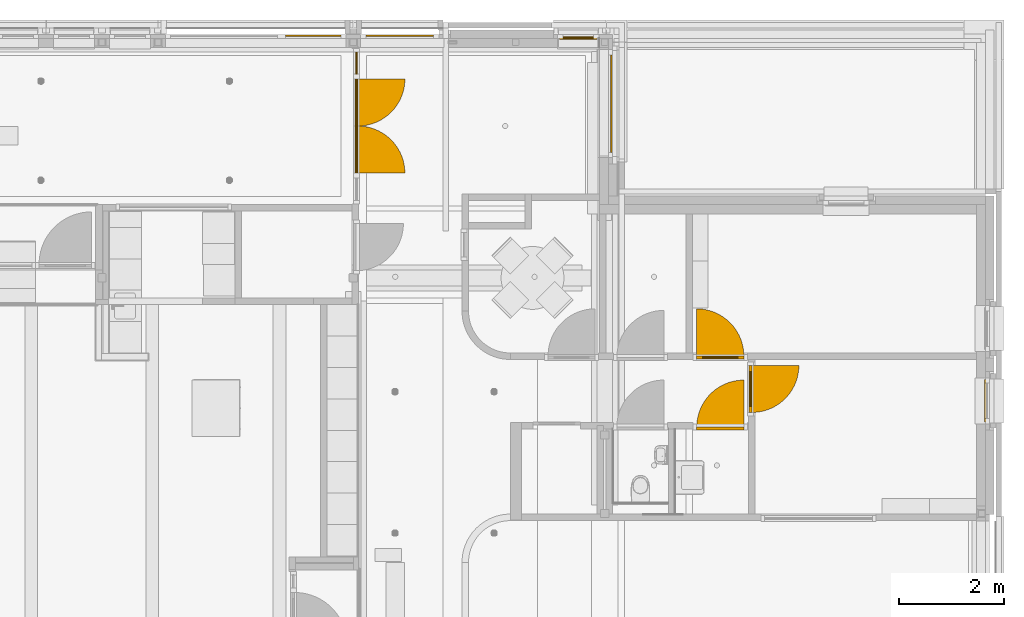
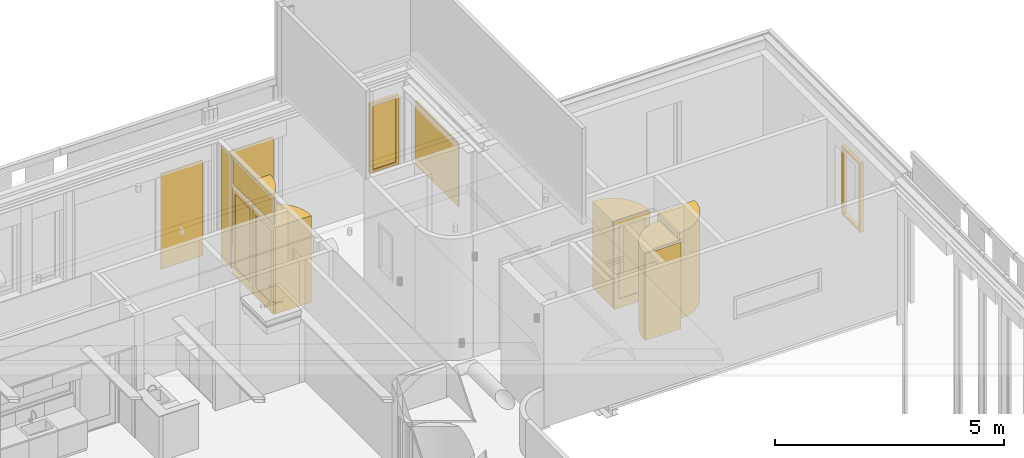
# One storey, part 71 of 128: 17 windows, 5 doors, 6 elements without a shape of their own.
"""IFC2X3 building model written with IfcOpenShell, lengths in millimetres."""

from ifc_helpers import new_model, entity, si_unit, converted_unit, derived_unit, direction, frame, frame_2d, origin, origin_2d_with_axis, place, context, subcontext, project, spatial, polyline, circle_curve, parameter, trimmed, segment, composite_curve, rectangle, outline, extrude, source, transform, mapped, material, type_object, type_shapes, element, aggregate, save


model = new_model("IFC2X3")

# Units and contexts
model_context = context("Model", 3, precision=0.01, world=origin(), true_north=direction((6.123031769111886e-17, 1.0)))
body_context = subcontext(model_context, "Body", "Model", "MODEL_VIEW")
ifc_project = project(units=[si_unit("LENGTHUNIT", "METRE", prefix="MILLI"), si_unit("AREAUNIT", "SQUARE_METRE"), si_unit("VOLUMEUNIT", "CUBIC_METRE"), converted_unit("PLANEANGLEUNIT", "DEGREE", entity("IfcRatioMeasure", 0.017453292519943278), si_unit("PLANEANGLEUNIT", "RADIAN"), dimensions=[0, 0, 0, 0, 0, 0, 0]), si_unit("MASSUNIT", "GRAM", prefix="KILO"), derived_unit("MASSDENSITYUNIT", [(si_unit("MASSUNIT", "GRAM", prefix="KILO"), 1), (si_unit("LENGTHUNIT", "METRE"), -3)]), derived_unit("IONCONCENTRATIONUNIT", [(si_unit("MASSUNIT", "GRAM", prefix="KILO"), 1), (si_unit("LENGTHUNIT", "METRE"), -3)]), derived_unit("MOMENTOFINERTIAUNIT", [(si_unit("LENGTHUNIT", "METRE"), 4)]), si_unit("TIMEUNIT", "SECOND"), si_unit("FREQUENCYUNIT", "HERTZ"), si_unit("THERMODYNAMICTEMPERATUREUNIT", "DEGREE_CELSIUS"), derived_unit("THERMALTRANSMITTANCEUNIT", [(si_unit("MASSUNIT", "GRAM", prefix="KILO"), 1), (si_unit("THERMODYNAMICTEMPERATUREUNIT", "KELVIN"), -1), (si_unit("TIMEUNIT", "SECOND"), -3)]), derived_unit("THERMALCONDUCTANCEUNIT", [(si_unit("MASSUNIT", "GRAM", prefix="KILO"), 1), (si_unit("THERMODYNAMICTEMPERATUREUNIT", "KELVIN"), -1), (si_unit("TIMEUNIT", "SECOND"), -3), (si_unit("LENGTHUNIT", "METRE"), 1)]), derived_unit("VOLUMETRICFLOWRATEUNIT", [(si_unit("LENGTHUNIT", "METRE"), 3), (si_unit("TIMEUNIT", "SECOND"), -1)]), derived_unit("MASSFLOWRATEUNIT", [(si_unit("MASSUNIT", "GRAM", prefix="KILO"), 1), (si_unit("TIMEUNIT", "SECOND"), -1)]), derived_unit("ROTATIONALFREQUENCYUNIT", [(si_unit("TIMEUNIT", "SECOND"), -1)]), si_unit("ELECTRICCURRENTUNIT", "AMPERE"), si_unit("ELECTRICVOLTAGEUNIT", "VOLT"), si_unit("POWERUNIT", "WATT"), si_unit("FORCEUNIT", "NEWTON", prefix="KILO"), si_unit("ILLUMINANCEUNIT", "LUX"), si_unit("LUMINOUSFLUXUNIT", "LUMEN"), si_unit("LUMINOUSINTENSITYUNIT", "CANDELA"), derived_unit("USERDEFINED", [(si_unit("MASSUNIT", "GRAM", prefix="KILO"), -1), (si_unit("LENGTHUNIT", "METRE"), -2), (si_unit("TIMEUNIT", "SECOND"), 3), (si_unit("LUMINOUSFLUXUNIT", "LUMEN"), 1)]), derived_unit("USERDEFINED", [(si_unit("MASSUNIT", "GRAM", prefix="KILO"), 1), (si_unit("TIMEUNIT", "SECOND"), -3), (si_unit("LENGTHUNIT", "METRE"), 3), (si_unit("ELECTRICCURRENTUNIT", "AMPERE"), -2)]), derived_unit("SOUNDPOWERUNIT", [(si_unit("MASSUNIT", "GRAM", prefix="KILO"), 1), (si_unit("TIMEUNIT", "SECOND"), -3), (si_unit("LENGTHUNIT", "METRE"), 2)]), derived_unit("SOUNDPRESSUREUNIT", [(si_unit("MASSUNIT", "GRAM", prefix="KILO"), 1), (si_unit("LENGTHUNIT", "METRE"), -1), (si_unit("TIMEUNIT", "SECOND"), -2)]), derived_unit("LINEARVELOCITYUNIT", [(si_unit("LENGTHUNIT", "METRE"), 1), (si_unit("TIMEUNIT", "SECOND"), -1)]), si_unit("PRESSUREUNIT", "PASCAL"), derived_unit("USERDEFINED", [(si_unit("MASSUNIT", "GRAM", prefix="KILO"), 1), (si_unit("LENGTHUNIT", "METRE"), -2), (si_unit("TIMEUNIT", "SECOND"), -2)]), derived_unit("LINEARFORCEUNIT", [(si_unit("MASSUNIT", "GRAM", prefix="KILO"), 1), (si_unit("TIMEUNIT", "SECOND"), -2)]), derived_unit("PLANARFORCEUNIT", [(si_unit("MASSUNIT", "GRAM", prefix="KILO"), 1), (si_unit("LENGTHUNIT", "METRE"), -1), (si_unit("TIMEUNIT", "SECOND"), -2)]), derived_unit("SPECIFICHEATCAPACITYUNIT", [(si_unit("THERMODYNAMICTEMPERATUREUNIT", "KELVIN"), -1), (si_unit("LENGTHUNIT", "METRE"), 2), (si_unit("TIMEUNIT", "SECOND"), -2)]), derived_unit("HEATINGVALUEUNIT", [(si_unit("LENGTHUNIT", "METRE"), 2), (si_unit("TIMEUNIT", "SECOND"), -2)]), derived_unit("VAPORPERMEABILITYUNIT", [(si_unit("LENGTHUNIT", "METRE"), -1), (si_unit("TIMEUNIT", "SECOND"), 1)]), derived_unit("DYNAMICVISCOSITYUNIT", [(si_unit("MASSUNIT", "GRAM", prefix="KILO"), 1), (si_unit("TIMEUNIT", "SECOND"), -1), (si_unit("LENGTHUNIT", "METRE"), -1)]), derived_unit("THERMALEXPANSIONCOEFFICIENTUNIT", [(si_unit("THERMODYNAMICTEMPERATUREUNIT", "KELVIN"), -1)]), derived_unit("MODULUSOFELASTICITYUNIT", [(si_unit("MASSUNIT", "GRAM", prefix="KILO"), 1), (si_unit("LENGTHUNIT", "METRE"), -1), (si_unit("TIMEUNIT", "SECOND"), -2)]), derived_unit("ISOTHERMALMOISTURECAPACITYUNIT", [(si_unit("LENGTHUNIT", "METRE"), 3), (si_unit("MASSUNIT", "GRAM", prefix="KILO"), -1)]), derived_unit("MOISTUREDIFFUSIVITYUNIT", [(si_unit("TIMEUNIT", "SECOND"), -1), (si_unit("LENGTHUNIT", "METRE"), 2)])], contexts=[model_context])

# Site, building, storey
site_placement = place(None, frame((0.0, 300.0, 0.0)))
site = spatial("IfcSite", under=ifc_project, at=site_placement, Name="<Kadastrale nummers>", CompositionType="ELEMENT")
building_placement = place(site_placement, origin())
building = spatial("IfcBuilding", under=site, at=building_placement, CompositionType="ELEMENT")
storey_placement = place(building_placement, frame((0.0, 0.0, 3560.0000331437)))
storey = spatial("IfcBuildingStorey", under=building, at=storey_placement, Name="01 eerste verdieping", CompositionType="ELEMENT", Elevation=3560.0000331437)

# Windows
ifc_material_1 = material(Name="Clearance Zones")
window_style_1 = type_object("IfcWindowStyle", Name="BU deur links:BU deur links", ConstructionType="NOTDEFINED", OperationType="NOTDEFINED", ParameterTakesPrecedence=False, Sizeable=False, material=ifc_material_1)
shared_shape_1 = source(origin(), body_context, "Body", "SweptSolid", [
    extrude(outline(composite_curve([segment(polyline([(-600.0, -300.0), (300.0, -300.0)]), True, "CONTINUOUS"), segment(polyline([(300.0, -300.0), (300.0, 600.0)]), True, "CONTINUOUS"), segment(trimmed(circle_curve(frame_2d((300.0, -300.0), x_axis=(1.0, 0.0)), 900.0000000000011), [parameter(90.00000000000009)], [parameter(179.99999999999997)], True, "PARAMETER"), True, "CONTINUOUS")], self_intersect=False)), frame((-150.0, -327.0, -20.0), z_axis=(0.0, 0.0, 1.0), x_axis=(-1.0, 0.0, 0.0)), (0.0, 0.0, 1.0), 2303.0000000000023),
])
type_shapes(window_style_1, [shared_shape_1])
for number, where, z_axis, x_axis, name in (
    (1, (36658.0, 47750.0, 130.0000018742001), (0.0, 0.0, 1.0), (0.0, 1.0, 0.0), "BU deur links:BU deur links"),
    (2, (43607.0, 42422.37500267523, 130.00000187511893), (0.0, 0.0, 1.0), (-1.0, 0.0, 0.0), "BU deur links:BU deur links"),
):
    element("IfcWindow", number, at=place(storey_placement, frame(where, z_axis=z_axis, x_axis=x_axis)), inside=storey, type_object=window_style_1, material=ifc_material_1, Name=name, ObjectType="BU deur links:BU deur links", OverallHeight=1183.999999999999, OverallWidth=900.0000000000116, context=body_context, shape_type="MappedRepresentation", body=[
        mapped(shared_shape_1, transform((0.0, 0.0, 0.0), scale=1.0)),
    ])
window_style_2 = type_object("IfcWindowStyle", Name="BU deur links:BU deur links", ConstructionType="NOTDEFINED", OperationType="NOTDEFINED", ParameterTakesPrecedence=False, Sizeable=False, material=ifc_material_1)
shared_shape_2 = source(origin(), body_context, "Body", "SweptSolid", [
    extrude(outline(composite_curve([segment(trimmed(circle_curve(frame_2d((300.0, 300.0), x_axis=(1.0, 0.0)), 900.0000000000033), [parameter(180.00000000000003)], [parameter(269.9999999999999)], True, "PARAMETER"), True, "CONTINUOUS"), segment(polyline([(300.0, -600.0), (300.0, 300.0)]), True, "CONTINUOUS"), segment(polyline([(300.0, 300.0), (-600.0, 300.0)]), True, "CONTINUOUS")], self_intersect=False)), frame((-150.0, 327.0, -20.0), z_axis=(0.0, 0.0, 1.0), x_axis=(-1.0, 0.0, 0.0)), (0.0, 0.0, 1.0), 2303.0000000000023),
])
type_shapes(window_style_2, [shared_shape_2])
window_1_placement = place(storey_placement, frame((43607.0, 43782.125002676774, 130.00000187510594)))
element("IfcWindow", 3, at=window_1_placement, inside=storey, type_object=window_style_2, material=ifc_material_1, Name="BU deur links:BU deur links", ObjectType="BU deur links:BU deur links", OverallHeight=1184.0000000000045, OverallWidth=900.0000000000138, context=body_context, shape_type="MappedRepresentation", body=[
    mapped(shared_shape_2, transform((0.0, 0.0, 0.0), scale=1.0)),
])
window_2_placement = place(storey_placement, frame((44182.0, 43180.125002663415, 130.00000187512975), z_axis=(0.0, 0.0, 1.0), x_axis=(0.0, -1.0, 0.0)))
element("IfcWindow", 4, at=window_2_placement, inside=storey, type_object=window_style_2, material=ifc_material_1, Name="BU deur links:BU deur links", ObjectType="BU deur links:BU deur links", OverallHeight=1184.0000000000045, OverallWidth=900.0000000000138, context=body_context, shape_type="MappedRepresentation", body=[
    mapped(shared_shape_2, transform((0.0, 0.0, 0.0), scale=1.0)),
])

# Curtain wall, door
curtain_wall_type_1 = type_object("IfcCurtainWallType", Name="Curtain Wall:Merk H02", PredefinedType="NOTDEFINED")
curtain_wall_1_placement = place(storey_placement, frame((0.0, 0.0, -3560.0000331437)))
curtain_wall_1 = element("IfcCurtainWall", 5, at=curtain_wall_1_placement, inside=storey, type_object=curtain_wall_type_1, Name="Curtain Wall:Merk H02", ObjectType="Curtain Wall:Merk H02")
ifc_material_2 = material(Name="ISR_Kunststof_wit")
door_style_1 = type_object("IfcDoorStyle", Name="31_DO_dichte_deur:dichte_deur", ConstructionType="NOTDEFINED", OperationType="NOTDEFINED", ParameterTakesPrecedence=False, Sizeable=False, material=ifc_material_2)
shared_shape_3 = source(origin(), body_context, "Body", "SweptSolid", [
    extrude(rectangle(XDim=26.99999999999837, YDim=899.9999999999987, at=origin_2d_with_axis()), frame((0.0, 12.499999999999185, 0.0), z_axis=(0.0, 0.0, 1.0), x_axis=(0.0, 1.0, 0.0)), (0.0, 0.0, 1.0), 2303.0000000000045),
    extrude(rectangle(XDim=26.99999999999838, YDim=899.9999999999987, at=origin_2d_with_axis()), frame((0.0, 39.49999999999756, 0.0), z_axis=(0.0, 0.0, 1.0), x_axis=(0.0, 1.0, 0.0)), (0.0, 0.0, 1.0), 2303.0000000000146),
])
type_shapes(door_style_1, [shared_shape_3])
door_1_placement = place(curtain_wall_1_placement, frame((43607.0, 42395.12500267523, 3670.00003501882)))
door_1 = element("IfcDoor", 6, at=door_1_placement, type_object=door_style_1, material=ifc_material_2, Name="31_DO_dichte_deur:dichte_deur", ObjectType="31_DO_dichte_deur:dichte_deur", OverallHeight=2303.0000000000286, OverallWidth=900.0000000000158, context=body_context, shape_type="MappedRepresentation", body=[
    mapped(shared_shape_3, transform((0.0, 0.0, 0.0), scale=1.0)),
])
aggregate(curtain_wall_1, [door_1])

# Windows
ifc_material_3 = material(Name="glas_enscape")
window_style_3 = type_object("IfcWindowStyle", Name="WI_subvak1:glas 2", ConstructionType="NOTDEFINED", OperationType="NOTDEFINED", ParameterTakesPrecedence=False, Sizeable=False, material=ifc_material_3)
shared_shape_4 = source(origin(), body_context, "Body", "SweptSolid", [
    extrude(rectangle(XDim=660.0000000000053, YDim=24.00000000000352, at=origin_2d_with_axis()), origin(), (0.0, 0.0, 1.0), 1942.999999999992),
])
type_shapes(window_style_3, [shared_shape_4])
for number, where, z_axis, x_axis, name in (
    (7, (43607.0, 43782.125002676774, 350.0000018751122), (0.0, 0.0, 1.0), (-1.0, 0.0, 0.0), "WI_subvak1:glas 2"),
    (8, (44182.0, 43180.1250026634, 350.00000187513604), (0.0, 0.0, 1.0), (0.0, 1.0, 0.0), "WI_subvak1:glas 2"),
):
    element("IfcWindow", number, at=place(storey_placement, frame(where, z_axis=z_axis, x_axis=x_axis)), inside=storey, type_object=window_style_3, material=ifc_material_3, Name=name, ObjectType="WI_subvak1:glas 2", OverallHeight=609.9286498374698, OverallWidth=660.0000000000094, context=body_context, shape_type="MappedRepresentation", body=[
        mapped(shared_shape_4, transform((0.0, 0.0, 0.0), scale=1.0)),
    ])
window_style_4 = type_object("IfcWindowStyle", Name="WI_subvak1:glas 2", ConstructionType="NOTDEFINED", OperationType="NOTDEFINED", ParameterTakesPrecedence=False, Sizeable=False, material=ifc_material_3)
shared_shape_5 = source(origin(), body_context, "Body", "SweptSolid", [
    extrude(rectangle(XDim=24.00000000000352, YDim=660.0000000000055, at=frame_2d((0.0, 2.842170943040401e-14), x_axis=(1.0, 0.0))), frame((0.0, 0.0, 0.0), z_axis=(0.0, 0.0, 1.0), x_axis=(0.0, -1.0, 0.0)), (0.0, 0.0, 1.0), 1942.999999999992),
])
type_shapes(window_style_4, [shared_shape_5])
for number, where, z_axis, x_axis, name in (
    (9, (36658.0, 47750.0, 350.0000018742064), (0.0, 0.0, 1.0), (0.0, -1.0, 0.0), "WI_subvak1:glas 2"),
    (10, (36658.0, 48650.0, 350.0000018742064), (0.0, 0.0, 1.0), (0.0, -1.0, 0.0), "WI_subvak1:glas 2"),
):
    element("IfcWindow", number, at=place(storey_placement, frame(where, z_axis=z_axis, x_axis=x_axis)), inside=storey, type_object=window_style_4, material=ifc_material_3, Name=name, ObjectType="WI_subvak1:glas 2", OverallHeight=609.9286498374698, OverallWidth=660.0000000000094, context=body_context, shape_type="MappedRepresentation", body=[
        mapped(shared_shape_5, transform((0.0, 0.0, 0.0), scale=1.0)),
    ])

# Curtain wall, door
curtain_wall_type_2 = type_object("IfcCurtainWallType", Name="Curtain Wall:Merk H16", PredefinedType="NOTDEFINED")
curtain_wall_2_placement = place(storey_placement, frame((0.0, 0.0, -3560.0000331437)))
curtain_wall_2 = element("IfcCurtainWall", 11, at=curtain_wall_2_placement, inside=storey, type_object=curtain_wall_type_2, Name="Curtain Wall:Merk H16", ObjectType="Curtain Wall:Merk H16")
ifc_material_4 = material(Name="HPL F7853 ocean gray")
door_style_2 = type_object("IfcDoorStyle", Name="31_DO_deur_met_stapeldorpel:deur_met_stapeldorpel", ConstructionType="NOTDEFINED", OperationType="NOTDEFINED", ParameterTakesPrecedence=False, Sizeable=False, material=ifc_material_4)
shared_shape_6 = source(origin(), body_context, "Body", "SweptSolid", [
    extrude(outline(polyline([(-450.0, -1151.4999999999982), (450.0, -1151.4999999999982), (450.0, 1151.4999999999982), (-450.0, 1151.4999999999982), (-450.0, -1151.4999999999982)]), holes=[polyline([(-330.0, 911.499999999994), (330.0, 911.4999999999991), (330.0, -1031.4999999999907), (-330.0, -1031.499999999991), (-330.0, 911.499999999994)])]), frame((0.0, 84.0, 1151.5000000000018), z_axis=(0.0, -1.0, 0.0), x_axis=(-1.0, 0.0, 0.0)), (0.0, 0.0, 1.0), 26.999999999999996),
    extrude(outline(polyline([(-450.0, -1151.4999999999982), (450.0, -1151.4999999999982), (450.0, 1151.4999999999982), (-450.0, 1151.4999999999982), (-450.0, -1151.4999999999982)]), holes=[polyline([(-330.0, 911.4999999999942), (330.0, 911.4999999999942), (330.0, -1031.4999999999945), (-330.0, -1031.4999999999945), (-330.0, 911.4999999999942)])]), frame((0.0, 57.0, 1151.5000000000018), z_axis=(0.0, -1.0, 0.0), x_axis=(-1.0, 0.0, 0.0)), (0.0, 0.0, 1.0), 26.99999999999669),
])
type_shapes(door_style_2, [shared_shape_6])
door_2_placement = place(curtain_wall_2_placement, frame((43607.0, 43725.125002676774, 3670.000035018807)))
door_2 = element("IfcDoor", 12, at=door_2_placement, type_object=door_style_2, material=ifc_material_4, Name="31_DO_deur_met_stapeldorpel:deur_met_stapeldorpel", ObjectType="31_DO_deur_met_stapeldorpel:deur_met_stapeldorpel", OverallHeight=2303.0000000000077, OverallWidth=900.0000000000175, context=body_context, shape_type="MappedRepresentation", body=[
    mapped(shared_shape_6, transform((0.0, 0.0, 0.0), scale=1.0)),
])
aggregate(curtain_wall_2, [door_2])

curtain_wall_3_placement = place(storey_placement, frame((0.0, 0.0, -3560.0000331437)))
curtain_wall_3 = element("IfcCurtainWall", 13, at=curtain_wall_3_placement, inside=storey, type_object=curtain_wall_type_2, Name="Curtain Wall:Merk H16", ObjectType="Curtain Wall:Merk H16")
door_3_placement = place(curtain_wall_3_placement, frame((44125.0, 43180.125002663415, 3670.000035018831), z_axis=(0.0, 0.0, 1.0), x_axis=(0.0, -1.0, 0.0)))
door_3 = element("IfcDoor", 14, at=door_3_placement, type_object=door_style_2, material=ifc_material_4, Name="31_DO_deur_met_stapeldorpel:deur_met_stapeldorpel", ObjectType="31_DO_deur_met_stapeldorpel:deur_met_stapeldorpel", OverallHeight=2303.0000000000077, OverallWidth=900.0000000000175, context=body_context, shape_type="MappedRepresentation", body=[
    mapped(shared_shape_6, transform((0.0, 0.0, 0.0), scale=1.0)),
])
aggregate(curtain_wall_3, [door_3])

# Curtain wall, doors
curtain_wall_type_3 = type_object("IfcCurtainWallType", Name="Curtain Wall:Merk H11", PredefinedType="NOTDEFINED")
curtain_wall_4_placement = place(storey_placement, frame((0.0, 0.0, -3560.0000331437)))
curtain_wall_4 = element("IfcCurtainWall", 15, at=curtain_wall_4_placement, inside=storey, type_object=curtain_wall_type_3, Name="Curtain Wall:Merk H11", ObjectType="Curtain Wall:Merk H11")
door_style_3 = type_object("IfcDoorStyle", Name="31_DO_deur_met_stapeldorpel:deur_met_stapeldorpel", ConstructionType="NOTDEFINED", OperationType="NOTDEFINED", ParameterTakesPrecedence=False, Sizeable=False, material=ifc_material_4)
shared_shape_7 = source(origin(), body_context, "Body", "SweptSolid", [
    extrude(outline(polyline([(-450.0, -1151.4999999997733), (450.0, -1151.4999999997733), (450.0, 1151.4999999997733), (-450.0, 1151.4999999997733), (-450.0, -1151.4999999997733)]), holes=[polyline([(-330.0, 911.4999999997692), (330.0, 911.4999999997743), (330.0, -1031.499999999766), (-330.0, -1031.4999999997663), (-330.0, 911.4999999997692)])]), frame((0.0, 57.0, 1151.4999999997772), z_axis=(0.0, 1.0, 0.0), x_axis=(1.0, 0.0, 0.0)), (0.0, 0.0, 1.0), 26.999999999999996),
    extrude(outline(polyline([(-450.0, -1151.4999999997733), (450.0, -1151.4999999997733), (450.0, 1151.4999999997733), (-450.0, 1151.4999999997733), (-450.0, -1151.4999999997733)]), holes=[polyline([(-330.0, 911.4999999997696), (330.0, 911.4999999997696), (330.0, -1031.49999999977), (-330.0, -1031.49999999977), (-330.0, 911.4999999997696)])]), frame((0.0, 30.0, 1151.4999999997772), z_axis=(0.0, 1.0, 0.0), x_axis=(1.0, 0.0, 0.0)), (0.0, 0.0, 1.0), 26.99999999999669),
])
type_shapes(door_style_3, [shared_shape_7])
door_4_placement = place(curtain_wall_4_placement, frame((36601.0, 48650.0, 3670.0000350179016), z_axis=(0.0, 0.0, 1.0), x_axis=(0.0, -1.0, 0.0)))
door_4 = element("IfcDoor", 16, at=door_4_placement, type_object=door_style_3, material=ifc_material_4, Name="31_DO_deur_met_stapeldorpel:deur_met_stapeldorpel", ObjectType="31_DO_deur_met_stapeldorpel:deur_met_stapeldorpel", OverallHeight=2302.999999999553, OverallWidth=900.0000000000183, context=body_context, shape_type="MappedRepresentation", body=[
    mapped(shared_shape_7, transform((0.0, 0.0, 0.0), scale=1.0)),
])
door_style_4 = type_object("IfcDoorStyle", Name="31_DO_deur_met_stapeldorpel:deur_met_stapeldorpel", ConstructionType="NOTDEFINED", OperationType="NOTDEFINED", ParameterTakesPrecedence=False, Sizeable=False, material=ifc_material_4)
shared_shape_8 = source(origin(), body_context, "Body", "SweptSolid", [
    extrude(outline(polyline([(-450.0, -1151.4999999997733), (450.0, -1151.4999999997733), (450.0, 1151.4999999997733), (-450.0, 1151.4999999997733), (-450.0, -1151.4999999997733)]), holes=[polyline([(-330.0, 911.4999999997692), (330.0, 911.4999999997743), (330.0, -1031.499999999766), (-330.0, -1031.4999999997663), (-330.0, 911.4999999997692)])]), frame((0.0, 57.0, 1151.4999999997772), z_axis=(0.0, 1.0, 0.0), x_axis=(1.0, 0.0, 0.0)), (0.0, 0.0, 1.0), 26.999999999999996),
    extrude(outline(polyline([(-450.0, -1151.4999999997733), (450.0, -1151.4999999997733), (450.0, 1151.4999999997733), (-450.0, 1151.4999999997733), (-450.0, -1151.4999999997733)]), holes=[polyline([(-330.0, 911.4999999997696), (330.0, 911.4999999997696), (330.0, -1031.49999999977), (-330.0, -1031.49999999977), (-330.0, 911.4999999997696)])]), frame((0.0, 30.0, 1151.4999999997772), z_axis=(0.0, 1.0, 0.0), x_axis=(1.0, 0.0, 0.0)), (0.0, 0.0, 1.0), 26.99999999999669),
])
type_shapes(door_style_4, [shared_shape_8])
door_5_placement = place(curtain_wall_4_placement, frame((36601.0, 47750.0, 3670.0000350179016), z_axis=(0.0, 0.0, 1.0), x_axis=(0.0, -1.0, 0.0)))
door_5 = element("IfcDoor", 17, at=door_5_placement, type_object=door_style_4, material=ifc_material_4, Name="31_DO_deur_met_stapeldorpel:deur_met_stapeldorpel", ObjectType="31_DO_deur_met_stapeldorpel:deur_met_stapeldorpel", OverallHeight=2302.999999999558, OverallWidth=900.0000000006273, context=body_context, shape_type="MappedRepresentation", body=[
    mapped(shared_shape_8, transform((0.0, 0.0, 0.0), scale=1.0)),
])
aggregate(curtain_wall_4, [door_4, door_5])

# Windows
window_style_5 = type_object("IfcWindowStyle", Name="WI_subvak1:glas 4", ConstructionType="NOTDEFINED", OperationType="NOTDEFINED", ParameterTakesPrecedence=False, Sizeable=False, material=ifc_material_3)
shared_shape_9 = source(origin(), body_context, "Body", "SweptSolid", [
    extrude(rectangle(XDim=24.00000000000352, YDim=428.0000000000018, at=origin_2d_with_axis()), frame((0.0, 0.0, 0.0), z_axis=(0.0, 0.0, 1.0), x_axis=(0.0, -1.0, 0.0)), (0.0, 0.0, 1.0), 3055.9999999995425),
])
type_shapes(window_style_5, [shared_shape_9])
window_3_placement = place(storey_placement, frame((36658.0, 49404.0, 157.00000187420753), z_axis=(0.0, 0.0, 1.0), x_axis=(0.0, -1.0, 0.0)))
element("IfcWindow", 18, at=window_3_placement, inside=storey, type_object=window_style_5, material=ifc_material_3, Name="WI_subvak1:glas 4", ObjectType="WI_subvak1:glas 4", OverallHeight=609.9286498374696, OverallWidth=428.00000000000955, context=body_context, shape_type="MappedRepresentation", body=[
    mapped(shared_shape_9, transform((0.0, 0.0, 0.0), scale=1.0)),
])
window_style_6 = type_object("IfcWindowStyle", Name="BU deur rechts:BU deur rechts", ConstructionType="NOTDEFINED", OperationType="NOTDEFINED", ParameterTakesPrecedence=False, Sizeable=False, material=ifc_material_1)
shared_shape_10 = source(origin(), body_context, "Body", "SweptSolid", [
    extrude(outline(composite_curve([segment(trimmed(circle_curve(frame_2d((300.0, 300.0), x_axis=(1.0, 0.0)), 899.9999999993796), [parameter(180.0)], [parameter(269.99999999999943)], True, "PARAMETER"), True, "CONTINUOUS"), segment(polyline([(300.0, -600.0), (300.0, 300.0)]), True, "CONTINUOUS"), segment(polyline([(300.0, 300.0), (-600.0, 300.0)]), True, "CONTINUOUS")], self_intersect=False)), frame((150.0, -327.0, 0.0)), (0.0, 0.0, 1.0), 2302.999999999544),
])
type_shapes(window_style_6, [shared_shape_10])
window_4_placement = place(storey_placement, frame((36658.0, 48650.0, 110.00000187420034), z_axis=(0.0, 0.0, 1.0), x_axis=(0.0, 1.0, 0.0)))
element("IfcWindow", 19, at=window_4_placement, inside=storey, type_object=window_style_6, material=ifc_material_1, Name="BU deur rechts:BU deur rechts", ObjectType="BU deur rechts:BU deur rechts", OverallHeight=1183.9999999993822, OverallWidth=899.9999999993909, context=body_context, shape_type="MappedRepresentation", body=[
    mapped(shared_shape_10, transform((0.0, 0.0, 0.0), scale=1.0)),
])
window_style_7 = type_object("IfcWindowStyle", Name="WI_subvak1:glas 4", ConstructionType="NOTDEFINED", OperationType="NOTDEFINED", ParameterTakesPrecedence=False, Sizeable=False, material=ifc_material_3)
shared_shape_11 = source(origin(), body_context, "Body", "SweptSolid", [
    extrude(rectangle(XDim=24.00000000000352, YDim=1800.000000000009, at=frame_2d((0.0, 5.684341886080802e-14), x_axis=(1.0, 0.0))), frame((0.0, 0.0, 0.0), z_axis=(0.0, 0.0, 1.0), x_axis=(0.0, -1.0, 0.0)), (0.0, 0.0, 1.0), 709.9999999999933),
])
type_shapes(window_style_7, [shared_shape_11])
window_5_placement = place(storey_placement, frame((36658.0, 48200.0, 2503.0), z_axis=(0.0, 0.0, 1.0), x_axis=(0.0, -1.0, 0.0)))
element("IfcWindow", 20, at=window_5_placement, inside=storey, type_object=window_style_7, material=ifc_material_3, Name="WI_subvak1:glas 4", ObjectType="WI_subvak1:glas 4", OverallHeight=609.9286498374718, OverallWidth=1800.000000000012, context=body_context, shape_type="MappedRepresentation", body=[
    mapped(shared_shape_11, transform((0.0, 0.0, 0.0), scale=1.0)),
])

# Curtain wall, window
curtain_wall_type_4 = type_object("IfcCurtainWallType", Name="Curtain Wall:K_30", PredefinedType="NOTDEFINED")
curtain_wall_5_placement = place(storey_placement, frame((0.0, 0.0, -3560.0000331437)))
curtain_wall_5 = element("IfcCurtainWall", 21, at=curtain_wall_5_placement, inside=storey, type_object=curtain_wall_type_4, Name="Curtain Wall:K_30", ObjectType="Curtain Wall:K_30")
ifc_material_5 = material(Name="ISR_Aluminium")
window_style_8 = type_object("IfcWindowStyle", Name="31_WI_raam_1:GEALAN KUBUS RAAM", ConstructionType="NOTDEFINED", OperationType="NOTDEFINED", ParameterTakesPrecedence=False, Sizeable=False, material=ifc_material_5)
shared_shape_12 = source(origin(), body_context, "Body", "SweptSolid", [
    extrude(outline(polyline([(-359.0, -918.9999824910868), (359.0, -918.9999824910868), (359.0, 918.9999824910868), (-359.0, 918.9999824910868), (-359.0, -918.9999824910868)]), holes=[polyline([(-295.0, 854.9999824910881), (295.0, 854.9999824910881), (295.0, -854.9999824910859), (-295.0, -854.9999824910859), (-295.0, 854.9999824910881)])]), frame((0.0, 63.0, 854.9999824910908), z_axis=(0.0, -1.0, 0.0), x_axis=(-1.0, 0.0, 0.0)), (0.0, 0.0, 1.0), 40.50000000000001),
    extrude(outline(polyline([(-359.0, -918.9999824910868), (359.0, -918.9999824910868), (359.0, 918.9999824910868), (-359.0, 918.9999824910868), (-359.0, -918.9999824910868)]), holes=[polyline([(-295.0, 854.9999824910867), (295.0, 854.9999824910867), (295.0, -854.9999824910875), (-295.0, -854.9999824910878), (-295.0, 854.9999824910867)])]), frame((0.0, 22.499999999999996, 854.9999824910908), z_axis=(0.0, -1.0, 0.0), x_axis=(-1.0, 0.0, 0.0)), (0.0, 0.0, 1.0), 40.5),
])
type_shapes(window_style_8, [shared_shape_12])
window_6_placement = place(curtain_wall_5_placement, frame((40894.0, 49868.0, 4580.0000331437)))
window_6 = element("IfcWindow", 22, at=window_6_placement, type_object=window_style_8, material=ifc_material_5, Name="31_WI_raam_1:GEALAN KUBUS RAAM", ObjectType="31_WI_raam_1:GEALAN KUBUS RAAM", OverallHeight=1853.9999649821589, OverallWidth=717.9999999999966, context=body_context, shape_type="MappedRepresentation", body=[
    mapped(shared_shape_12, transform((0.0, 0.0, 0.0), scale=1.0)),
])
aggregate(curtain_wall_5, [window_6])

# Windows
window_style_9 = type_object("IfcWindowStyle", Name="WI_subvak1:glas 4", ConstructionType="NOTDEFINED", OperationType="NOTDEFINED", ParameterTakesPrecedence=False, Sizeable=False, material=ifc_material_3)
shared_shape_13 = source(origin(), body_context, "Body", "SweptSolid", [
    extrude(rectangle(XDim=1863.999999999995, YDim=24.00000000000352, at=frame_2d((0.0, -1.7763568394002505e-15), x_axis=(1.0, 0.0))), origin(), (0.0, 0.0, 1.0), 1709.9999999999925),
])
type_shapes(window_style_9, [shared_shape_13])
window_7_placement = place(storey_placement, frame((41525.0, 48628.0, 1020.0), z_axis=(0.0, 0.0, 1.0), x_axis=(0.0, 1.0, 0.0)))
element("IfcWindow", 23, at=window_7_placement, inside=storey, type_object=window_style_9, material=ifc_material_3, Name="WI_subvak1:glas 4", ObjectType="WI_subvak1:glas 4", OverallHeight=609.9286498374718, OverallWidth=1863.9999999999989, context=body_context, shape_type="MappedRepresentation", body=[
    mapped(shared_shape_13, transform((0.0, 0.0, 0.0), scale=1.0)),
])
window_style_10 = type_object("IfcWindowStyle", Name="WI_subvak1:glas 4", ConstructionType="NOTDEFINED", OperationType="NOTDEFINED", ParameterTakesPrecedence=False, Sizeable=False, material=ifc_material_3)
shared_shape_14 = source(origin(), body_context, "Body", "SweptSolid", [
    extrude(rectangle(XDim=1295.0000000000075, YDim=24.00000000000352, at=origin_2d_with_axis()), origin(), (0.0, 0.0, 1.0), 2539.9999649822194),
])
type_shapes(window_style_10, [shared_shape_14])
window_8_placement = place(storey_placement, frame((37487.500000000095, 49925.0, 190.00000187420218), z_axis=(0.0, 0.0, 1.0), x_axis=(-1.0, 0.0, 0.0)))
element("IfcWindow", 24, at=window_8_placement, inside=storey, type_object=window_style_10, material=ifc_material_3, Name="WI_subvak1:glas 4", ObjectType="WI_subvak1:glas 4", OverallHeight=609.928649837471, OverallWidth=1295.0000000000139, context=body_context, shape_type="MappedRepresentation", body=[
    mapped(shared_shape_14, transform((0.0, 0.0, 0.0), scale=1.0)),
])
window_style_11 = type_object("IfcWindowStyle", Name="WI_subvak1:glas 4", ConstructionType="NOTDEFINED", OperationType="NOTDEFINED", ParameterTakesPrecedence=False, Sizeable=False, material=ifc_material_3)
shared_shape_15 = source(origin(), body_context, "Body", "SweptSolid", [
    extrude(rectangle(XDim=1050.99999999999, YDim=24.000000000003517, at=origin_2d_with_axis()), origin(), (0.0, 0.0, 1.0), 2539.9999649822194),
])
type_shapes(window_style_11, [shared_shape_15])
window_9_placement = place(storey_placement, frame((35834.5000000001, 49925.0, 190.00000187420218), z_axis=(0.0, 0.0, 1.0), x_axis=(-1.0, 0.0, 0.0)))
element("IfcWindow", 25, at=window_9_placement, inside=storey, type_object=window_style_11, material=ifc_material_3, Name="WI_subvak1:glas 4", ObjectType="WI_subvak1:glas 4", OverallHeight=609.9286498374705, OverallWidth=1050.9999999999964, context=body_context, shape_type="MappedRepresentation", body=[
    mapped(shared_shape_15, transform((0.0, 0.0, 0.0), scale=1.0)),
])
window_style_12 = type_object("IfcWindowStyle", Name="WI_subvak:glas 2", ConstructionType="NOTDEFINED", OperationType="NOTDEFINED", ParameterTakesPrecedence=False, Sizeable=False, material=ifc_material_3)
shared_shape_16 = source(origin(), body_context, "Body", "SweptSolid", [
    extrude(rectangle(XDim=589.9999999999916, YDim=24.00000000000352, at=frame_2d((0.0, -1.7763568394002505e-15), x_axis=(1.0, 0.0))), origin(), (0.0, 0.0, 1.0), 1709.9999649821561),
])
type_shapes(window_style_12, [shared_shape_16])
window_10_placement = place(storey_placement, frame((40894.0, 49890.49999999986, 1020.0), z_axis=(0.0, 0.0, 1.0), x_axis=(-1.0, 0.0, 0.0)))
element("IfcWindow", 26, at=window_10_placement, inside=storey, type_object=window_style_12, material=ifc_material_3, Name="WI_subvak:glas 2", ObjectType="WI_subvak:glas 2", OverallHeight=609.9286498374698, OverallWidth=589.999999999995, context=body_context, shape_type="MappedRepresentation", body=[
    mapped(shared_shape_16, transform((0.0, 0.0, 0.0), scale=1.0)),
])

# Curtain wall, window
curtain_wall_type_5 = type_object("IfcCurtainWallType", Name="Curtain Wall:K_31", PredefinedType="NOTDEFINED")
curtain_wall_6_placement = place(storey_placement, frame((0.0, 0.0, -3560.0000331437)))
curtain_wall_6 = element("IfcCurtainWall", 27, at=curtain_wall_6_placement, inside=storey, type_object=curtain_wall_type_5, Name="Curtain Wall:K_31", ObjectType="Curtain Wall:K_31")
window_style_13 = type_object("IfcWindowStyle", Name="31_WI_raam_1:GEALAN KUBUS RAAM", ConstructionType="NOTDEFINED", OperationType="NOTDEFINED", ParameterTakesPrecedence=False, Sizeable=False, material=ifc_material_5)
shared_shape_17 = source(origin(), body_context, "Body", "SweptSolid", [
    extrude(outline(polyline([(-404.0, -919.0), (404.0, -919.0), (404.0, 919.0), (-404.0, 919.0), (-404.0, -919.0)]), holes=[polyline([(-340.0, 855.0), (340.0, 855.0), (340.0, -855.0), (-340.0, -855.0), (-340.0, 855.0)])]), frame((0.0, 63.0, 855.0), z_axis=(0.0, -1.0, 0.0), x_axis=(-1.0, 0.0, 0.0)), (0.0, 0.0, 1.0), 40.50000000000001),
    extrude(outline(polyline([(-404.0, -919.0), (404.0, -919.0), (404.0, 919.0), (-404.0, 919.0), (-404.0, -919.0)]), holes=[polyline([(-340.0, 855.0), (340.0, 855.0), (340.0, -855.0), (-340.0, -855.0), (-340.0, 855.0)])]), frame((0.0, 22.499999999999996, 855.0), z_axis=(0.0, -1.0, 0.0), x_axis=(-1.0, 0.0, 0.0)), (0.0, 0.0, 1.0), 40.5),
])
type_shapes(window_style_13, [shared_shape_17])
window_11_placement = place(curtain_wall_6_placement, frame((48668.0, 42952.12500266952, 4580.0000331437), z_axis=(0.0, 0.0, 1.0), x_axis=(0.0, -1.0, 0.0)))
window_11 = element("IfcWindow", 28, at=window_11_placement, type_object=window_style_13, material=ifc_material_5, Name="31_WI_raam_1:GEALAN KUBUS RAAM", ObjectType="31_WI_raam_1:GEALAN KUBUS RAAM", OverallHeight=1853.9999999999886, OverallWidth=808.0000000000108, context=body_context, shape_type="MappedRepresentation", body=[
    mapped(shared_shape_17, transform((0.0, 0.0, 0.0), scale=1.0)),
])
aggregate(curtain_wall_6, [window_11])

save(model, "model.ifc")
